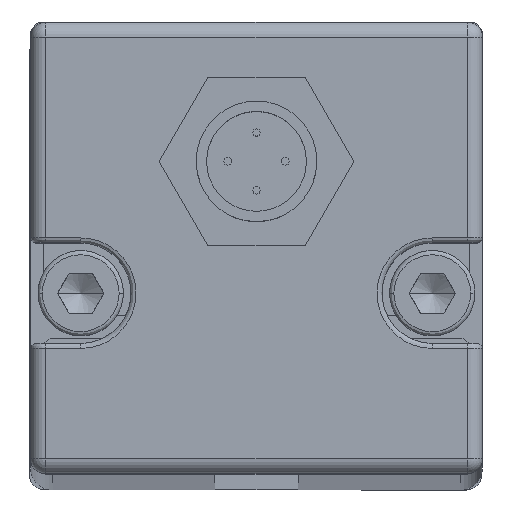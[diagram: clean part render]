
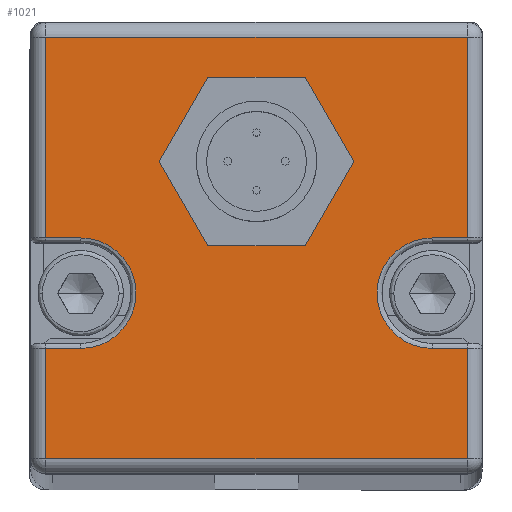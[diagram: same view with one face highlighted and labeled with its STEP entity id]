
A CAD part, top view. The second image highlights one B-rep face of the part: STEP entity #1021.
In plain terms, the highlighted planar face has unit normal (0, 0, 1) as drawn and (0, 1, 0) by its records, which use the part's own axes.
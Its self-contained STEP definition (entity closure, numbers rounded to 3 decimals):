
#99 = VERTEX_POINT ( 'NONE', #3075 ) ;
#114 = EDGE_LOOP ( 'NONE', ( #1639, #1640, #1641, #1642, #1643, #1644, #1645, #1646, #1647, #1648, #1649, #1650 ) ) ;
#127 = EDGE_LOOP ( 'NONE', ( #1637, #1638 ) ) ;
#262 = VERTEX_POINT ( 'NONE', #709 ) ;
#265 = VERTEX_POINT ( 'NONE', #714 ) ;
#266 = VERTEX_POINT ( 'NONE', #715 ) ;
#267 = VERTEX_POINT ( 'NONE', #711 ) ;
#268 = VERTEX_POINT ( 'NONE', #716 ) ;
#709 = CARTESIAN_POINT ( 'NONE',  ( -17.5, 7., -1. ) ) ;
#711 = CARTESIAN_POINT ( 'NONE',  ( -21., 7., 21. ) ) ;
#714 = CARTESIAN_POINT ( 'NONE',  ( 21., 7., -21. ) ) ;
#715 = CARTESIAN_POINT ( 'NONE',  ( -21., 7., -21. ) ) ;
#716 = CARTESIAN_POINT ( 'NONE',  ( 21., 7., -1. ) ) ;
#1021 = ADVANCED_FACE ( 'NONE', ( #5445, #5446 ), #5111, .T. ) ;
#1637 = ORIENTED_EDGE ( 'NONE', *, *, #2429, .F. ) ;
#1638 = ORIENTED_EDGE ( 'NONE', *, *, #2393, .F. ) ;
#1639 = ORIENTED_EDGE ( 'NONE', *, *, #2430, .T. ) ;
#1640 = ORIENTED_EDGE ( 'NONE', *, *, #2427, .T. ) ;
#1641 = ORIENTED_EDGE ( 'NONE', *, *, #2424, .T. ) ;
#1642 = ORIENTED_EDGE ( 'NONE', *, *, #2428, .T. ) ;
#1643 = ORIENTED_EDGE ( 'NONE', *, *, #2426, .T. ) ;
#1644 = ORIENTED_EDGE ( 'NONE', *, *, #2431, .T. ) ;
#1645 = ORIENTED_EDGE ( 'NONE', *, *, #2432, .T. ) ;
#1646 = ORIENTED_EDGE ( 'NONE', *, *, #2433, .T. ) ;
#1647 = ORIENTED_EDGE ( 'NONE', *, *, #2434, .T. ) ;
#1648 = ORIENTED_EDGE ( 'NONE', *, *, #2435, .T. ) ;
#1649 = ORIENTED_EDGE ( 'NONE', *, *, #2436, .T. ) ;
#1650 = ORIENTED_EDGE ( 'NONE', *, *, #2437, .T. ) ;
#1670 = VERTEX_POINT ( 'NONE', #8021 ) ;
#1672 = VERTEX_POINT ( 'NONE', #8028 ) ;
#1685 = VERTEX_POINT ( 'NONE', #8041 ) ;
#1700 = VERTEX_POINT ( 'NONE', #8056 ) ;
#1745 = VERTEX_POINT ( 'NONE', #8101 ) ;
#1748 = VERTEX_POINT ( 'NONE', #8104 ) ;
#1750 = VERTEX_POINT ( 'NONE', #8106 ) ;
#1755 = VERTEX_POINT ( 'NONE', #8111 ) ;
#2393 = EDGE_CURVE ( 'NONE', #1700, #1685, #7933, .T. ) ;
#2424 = EDGE_CURVE ( 'NONE', #1750, #1745, #7981, .T. ) ;
#2426 = EDGE_CURVE ( 'NONE', #268, #265, #7979, .T. ) ;
#2427 = EDGE_CURVE ( 'NONE', #1748, #1750, #7984, .T. ) ;
#2428 = EDGE_CURVE ( 'NONE', #1745, #268, #7986, .T. ) ;
#2429 = EDGE_CURVE ( 'NONE', #1685, #1700, #7990, .T. ) ;
#2430 = EDGE_CURVE ( 'NONE', #1755, #1748, #7977, .T. ) ;
#2431 = EDGE_CURVE ( 'NONE', #265, #266, #7991, .T. ) ;
#2432 = EDGE_CURVE ( 'NONE', #266, #1672, #7993, .T. ) ;
#2433 = EDGE_CURVE ( 'NONE', #1672, #262, #7995, .T. ) ;
#2434 = EDGE_CURVE ( 'NONE', #262, #1670, #7999, .T. ) ;
#2435 = EDGE_CURVE ( 'NONE', #1670, #99, #7972, .T. ) ;
#2436 = EDGE_CURVE ( 'NONE', #99, #267, #8000, .T. ) ;
#2437 = EDGE_CURVE ( 'NONE', #267, #1755, #8002, .T. ) ;
#3075 = CARTESIAN_POINT ( 'NONE',  ( -21., 7., 10. ) ) ;
#5097 = CARTESIAN_POINT ( 'NONE',  ( 22.5, 7., 22.5 ) ) ;
#5111 = PLANE ( 'NONE',  #5317 ) ;
#5112 = DIRECTION ( 'NONE',  ( 0., 1., 0. ) ) ;
#5113 = DIRECTION ( 'NONE',  ( 0., 0., 1. ) ) ;
#5317 = AXIS2_PLACEMENT_3D ( 'NONE', #5097, #5112, #5113 ) ;
#5445 = FACE_BOUND ( 'NONE', #127, .T. ) ;
#5446 = FACE_OUTER_BOUND ( 'NONE', #114, .T. ) ;
#7408 = AXIS2_PLACEMENT_3D ( 'NONE', #8410, #8412, #8413 ) ;
#7933 = CIRCLE ( 'NONE', #7408, 6.5 ) ;
#7972 = LINE ( 'NONE', #8517, #7989 ) ;
#7976 = VECTOR ( 'NONE', #8498, 1000. ) ;
#7977 = LINE ( 'NONE', #8506, #7982 ) ;
#7979 = LINE ( 'NONE', #8497, #7976 ) ;
#7981 = CIRCLE ( 'NONE', #8680, 5.5 ) ;
#7982 = VECTOR ( 'NONE', #8507, 1000. ) ;
#7984 = LINE ( 'NONE', #8499, #7985 ) ;
#7985 = VECTOR ( 'NONE', #8500, 1000. ) ;
#7986 = LINE ( 'NONE', #8501, #7987 ) ;
#7987 = VECTOR ( 'NONE', #8502, 1000. ) ;
#7989 = VECTOR ( 'NONE', #8518, 1000. ) ;
#7990 = CIRCLE ( 'NONE', #8682, 6.5 ) ;
#7991 = LINE ( 'NONE', #8508, #7992 ) ;
#7992 = VECTOR ( 'NONE', #8509, 1000. ) ;
#7993 = LINE ( 'NONE', #8510, #7994 ) ;
#7994 = VECTOR ( 'NONE', #8511, 1000. ) ;
#7995 = LINE ( 'NONE', #8512, #7996 ) ;
#7996 = VECTOR ( 'NONE', #8513, 1000. ) ;
#7999 = CIRCLE ( 'NONE', #8681, 5.5 ) ;
#8000 = LINE ( 'NONE', #8519, #8001 ) ;
#8001 = VECTOR ( 'NONE', #8520, 1000. ) ;
#8002 = LINE ( 'NONE', #8521, #8003 ) ;
#8003 = VECTOR ( 'NONE', #8522, 1000. ) ;
#8021 = CARTESIAN_POINT ( 'NONE',  ( -17.5, 7., 10. ) ) ;
#8028 = CARTESIAN_POINT ( 'NONE',  ( -21., 7., -1. ) ) ;
#8041 = CARTESIAN_POINT ( 'NONE',  ( 0., 7., -2.1 ) ) ;
#8056 = CARTESIAN_POINT ( 'NONE',  ( 0., 7., -15.1 ) ) ;
#8101 = CARTESIAN_POINT ( 'NONE',  ( 17.5, 7., -1. ) ) ;
#8104 = CARTESIAN_POINT ( 'NONE',  ( 21., 7., 10. ) ) ;
#8106 = CARTESIAN_POINT ( 'NONE',  ( 17.5, 7., 10. ) ) ;
#8111 = CARTESIAN_POINT ( 'NONE',  ( 21., 7., 21. ) ) ;
#8410 = CARTESIAN_POINT ( 'NONE',  ( 0., 7., -8.6 ) ) ;
#8412 = DIRECTION ( 'NONE',  ( 0., 1., 0. ) ) ;
#8413 = DIRECTION ( 'NONE',  ( 0., 0., 1. ) ) ;
#8481 = CARTESIAN_POINT ( 'NONE',  ( 17.5, 7., 4.5 ) ) ;
#8490 = CARTESIAN_POINT ( 'NONE',  ( 0., 7., -8.6 ) ) ;
#8491 = DIRECTION ( 'NONE',  ( 0., -1., 0. ) ) ;
#8492 = DIRECTION ( 'NONE',  ( 0., 0., 1. ) ) ;
#8494 = CARTESIAN_POINT ( 'NONE',  ( -17.5, 7., 4.5 ) ) ;
#8497 = CARTESIAN_POINT ( 'NONE',  ( 21., 7., -22.5 ) ) ;
#8498 = DIRECTION ( 'NONE',  ( 0., 0., -1. ) ) ;
#8499 = CARTESIAN_POINT ( 'NONE',  ( 22.5, 7., 10. ) ) ;
#8500 = DIRECTION ( 'NONE',  ( -1., 0., 0. ) ) ;
#8501 = CARTESIAN_POINT ( 'NONE',  ( 22.5, 7., -1. ) ) ;
#8502 = DIRECTION ( 'NONE',  ( 1., 0., 0. ) ) ;
#8504 = DIRECTION ( 'NONE',  ( 0., 1., 0. ) ) ;
#8505 = DIRECTION ( 'NONE',  ( 0., 0., 1. ) ) ;
#8506 = CARTESIAN_POINT ( 'NONE',  ( 21., 7., 9.5 ) ) ;
#8507 = DIRECTION ( 'NONE',  ( 0., 0., -1. ) ) ;
#8508 = CARTESIAN_POINT ( 'NONE',  ( 22.5, 7., -21. ) ) ;
#8509 = DIRECTION ( 'NONE',  ( -1., 0., 0. ) ) ;
#8510 = CARTESIAN_POINT ( 'NONE',  ( -21., 7., 22.5 ) ) ;
#8511 = DIRECTION ( 'NONE',  ( 0., 0., 1. ) ) ;
#8512 = CARTESIAN_POINT ( 'NONE',  ( 22.5, 7., -1. ) ) ;
#8513 = DIRECTION ( 'NONE',  ( 1., 0., 0. ) ) ;
#8515 = DIRECTION ( 'NONE',  ( 0., -1., 0. ) ) ;
#8516 = DIRECTION ( 'NONE',  ( 0., 0., 1. ) ) ;
#8517 = CARTESIAN_POINT ( 'NONE',  ( 22.5, 7., 10. ) ) ;
#8518 = DIRECTION ( 'NONE',  ( -1., 0., 0. ) ) ;
#8519 = CARTESIAN_POINT ( 'NONE',  ( -21., 7., 22.5 ) ) ;
#8520 = DIRECTION ( 'NONE',  ( 0., 0., 1. ) ) ;
#8521 = CARTESIAN_POINT ( 'NONE',  ( 22.5, 7., 21. ) ) ;
#8522 = DIRECTION ( 'NONE',  ( 1., 0., 0. ) ) ;
#8680 = AXIS2_PLACEMENT_3D ( 'NONE', #8481, #8491, #8492 ) ;
#8681 = AXIS2_PLACEMENT_3D ( 'NONE', #8494, #8515, #8516 ) ;
#8682 = AXIS2_PLACEMENT_3D ( 'NONE', #8490, #8504, #8505 ) ;
